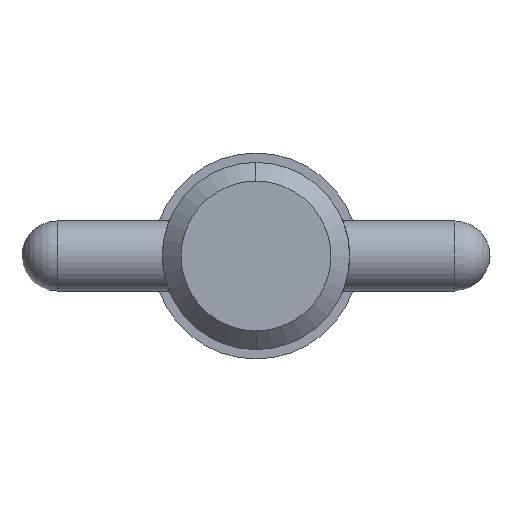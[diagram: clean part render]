
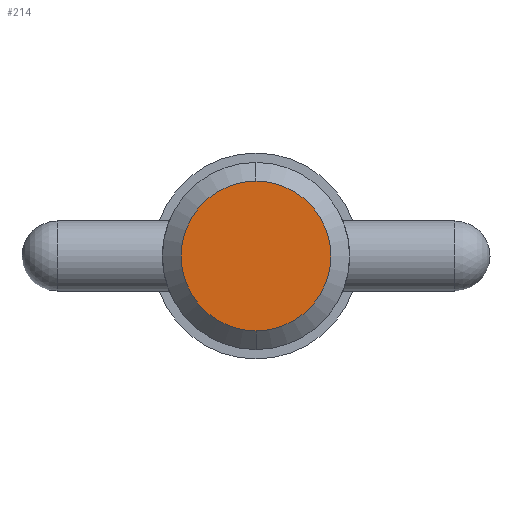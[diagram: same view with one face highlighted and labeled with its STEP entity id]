
A CAD part, left-side view. The second image highlights one B-rep face of the part: STEP entity #214.
In plain terms, the highlighted planar face has unit normal (-1, 0, 0).
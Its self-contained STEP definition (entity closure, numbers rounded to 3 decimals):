
#125 = VERTEX_POINT ( 'NONE', #352 ) ;
#138 = CIRCLE ( 'NONE', #607, 5.08 ) ;
#179 = DIRECTION ( 'NONE',  ( 0., 0., 1. ) ) ;
#214 = ADVANCED_FACE ( 'NONE', ( #575 ), #891, .T. ) ;
#352 = CARTESIAN_POINT ( 'NONE',  ( 0., 0., 5.08 ) ) ;
#365 = CARTESIAN_POINT ( 'NONE',  ( 0., 0., -5.08 ) ) ;
#418 = DIRECTION ( 'NONE',  ( -1., 0., 0. ) ) ;
#464 = CIRCLE ( 'NONE', #675, 5.08 ) ;
#501 = CARTESIAN_POINT ( 'NONE',  ( 0., 0., 0. ) ) ;
#503 = DIRECTION ( 'NONE',  ( 1., 0., 0. ) ) ;
#547 = EDGE_CURVE ( 'NONE', #688, #125, #138, .T. ) ;
#575 = FACE_OUTER_BOUND ( 'NONE', #795, .T. ) ;
#577 = CARTESIAN_POINT ( 'NONE',  ( 0., 0., 0. ) ) ;
#580 = CARTESIAN_POINT ( 'NONE',  ( 0., 0., 0. ) ) ;
#581 = EDGE_CURVE ( 'NONE', #125, #688, #464, .T. ) ;
#584 = DIRECTION ( 'NONE',  ( 0., 0., -1. ) ) ;
#607 = AXIS2_PLACEMENT_3D ( 'NONE', #580, #503, #979 ) ;
#643 = AXIS2_PLACEMENT_3D ( 'NONE', #501, #418, #179 ) ;
#647 = ORIENTED_EDGE ( 'NONE', *, *, #581, .F. ) ;
#675 = AXIS2_PLACEMENT_3D ( 'NONE', #577, #996, #584 ) ;
#688 = VERTEX_POINT ( 'NONE', #365 ) ;
#761 = ORIENTED_EDGE ( 'NONE', *, *, #547, .F. ) ;
#795 = EDGE_LOOP ( 'NONE', ( #761, #647 ) ) ;
#891 = PLANE ( 'NONE',  #643 ) ;
#979 = DIRECTION ( 'NONE',  ( 0., 0., -1. ) ) ;
#996 = DIRECTION ( 'NONE',  ( 1., 0., 0. ) ) ;
